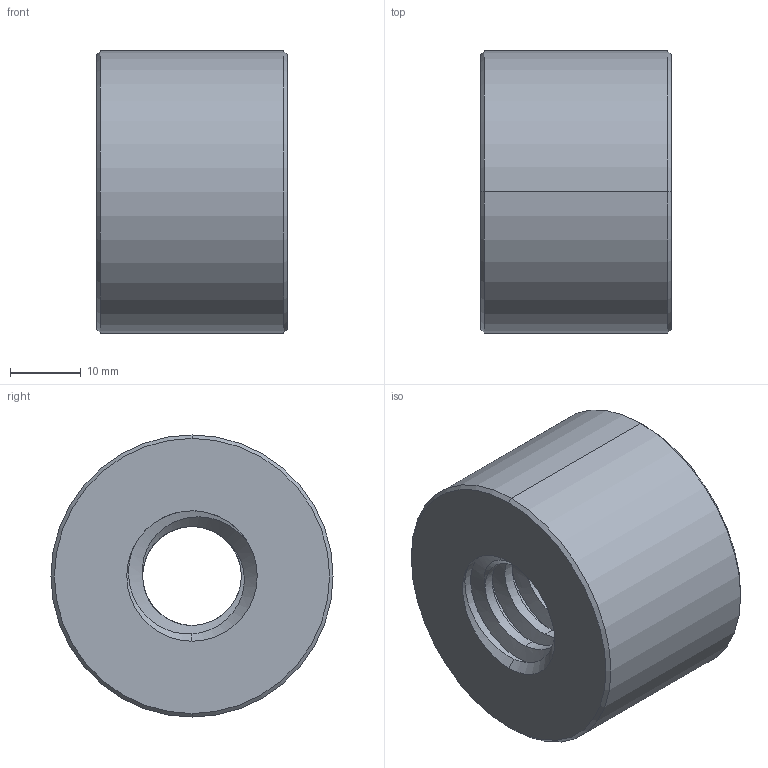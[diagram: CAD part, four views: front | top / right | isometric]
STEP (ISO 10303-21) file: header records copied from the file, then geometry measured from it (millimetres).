
FILE_DESCRIPTION((''),'2;1');
FILE_NAME('716-018-1100_PRT','2024-03-23T',('Brieden'),('ib-brieden'),'PRO/ENGINEER BY PARAMETRIC TECHNOLOGY CORPORATION, 2010160','PRO/ENGINEER BY PARAMETRIC TECHNOLOGY CORPORATION, 2010160','');
FILE_SCHEMA(('AUTOMOTIVE_DESIGN { 1 0 10303 214 1 1 1 1 }'));
Length unit declared in the file: millimetre
Products named in the file (1): 716-018-1100_PRT
Bounding box: 27 x 40 x 40 mm (x, y, z)
Volume: 28149.2 mm3; surface area: 7830.8 mm2
Topology: 1 solids, 1 shells, 32 faces, 78 edges, 48 vertices
Faces by surface type: cylinder 13, bspline 9, cone 8, plane 2
Entity records: 3305 total; most frequent: CARTESIAN_POINT 2587, ORIENTED_EDGE 156, DIRECTION 98, EDGE_CURVE 78, VERTEX_POINT 48, B_SPLINE_CURVE_WITH_KNOTS 40, AXIS2_PLACEMENT_3D 37, EDGE_LOOP 34
